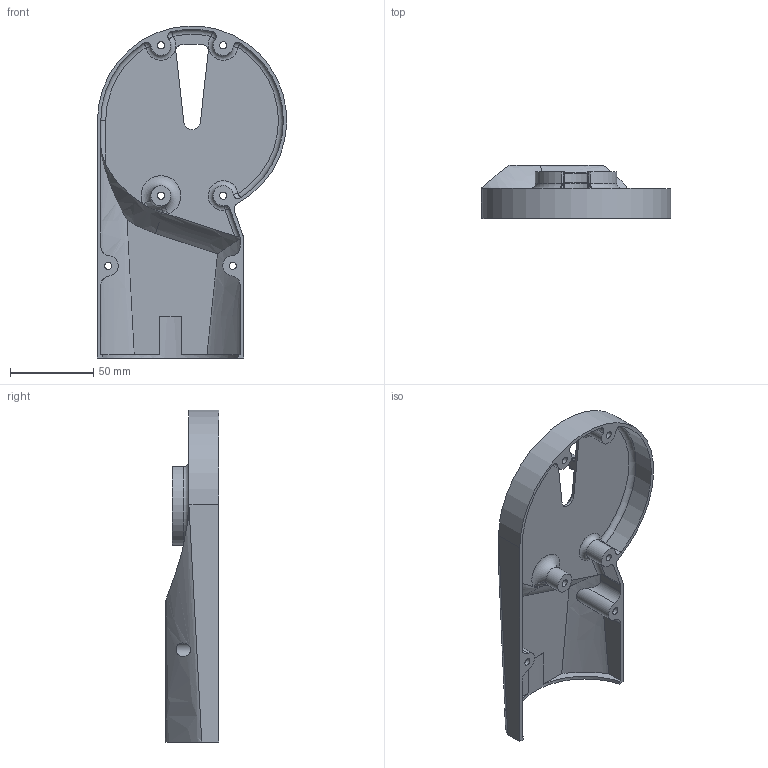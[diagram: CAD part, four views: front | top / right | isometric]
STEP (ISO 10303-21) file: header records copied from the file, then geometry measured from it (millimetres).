
FILE_DESCRIPTION(/* description */ ('STEP AP242 Edition 2','CAx-IF Rec.Pracs.---Representation and Presentation of Product Manufacturing Information (PMI)---4.0---2014-10-13','CAx-IF Rec.Pracs.---3D Tessellated Geometry---0.4---2014-09-14','2;1','CAx-IF Rec.Pracs.---User Defined Attributes---1.5---2016-08-15'),/* implementation_level */ '2;1');
FILE_NAME(/* name */ 'Assy_ForMFG - KD-C-202R_UpBicepIdle',/* time_stamp */ '2026-05-15T19:56:29Z',/* author */ (''),/* organization */ (''),/* preprocessor_version */ 'ST-DEVELOPER v20',/* originating_system */ 'ONSHAPE BY PTC INC, 1.215',/* authorisation */ ' ');
FILE_SCHEMA (('AP242_MANAGED_MODEL_BASED_3D_ENGINEERING_MIM_LF { 1 0 10303 442 3 1 4 }'));
Length unit declared in the file: metre
Products named in the file (1): KD-C-202R_UpBicepIdle
Bounding box: 113.9 x 32.25 x 199.92 mm (x, y, z)
Volume: 71457.6 mm3; surface area: 61332.7 mm2
Topology: 1 solids, 1 shells, 120 faces, 314 edges, 195 vertices
Faces by surface type: cylinder 51, plane 33, torus 14, bspline 12, sphere 6, cone 4
Full cylindrical faces by diameter (mm): 4.3 x6, 8.25 x6, 12 x1
Entity records: 4562 total; most frequent: CARTESIAN_POINT 1740, DIRECTION 579, ORIENTED_EDGE 576, EDGE_CURVE 288, AXIS2_PLACEMENT_3D 242, VERTEX_POINT 189, EDGE_LOOP 153, FACE_BOUND 153
